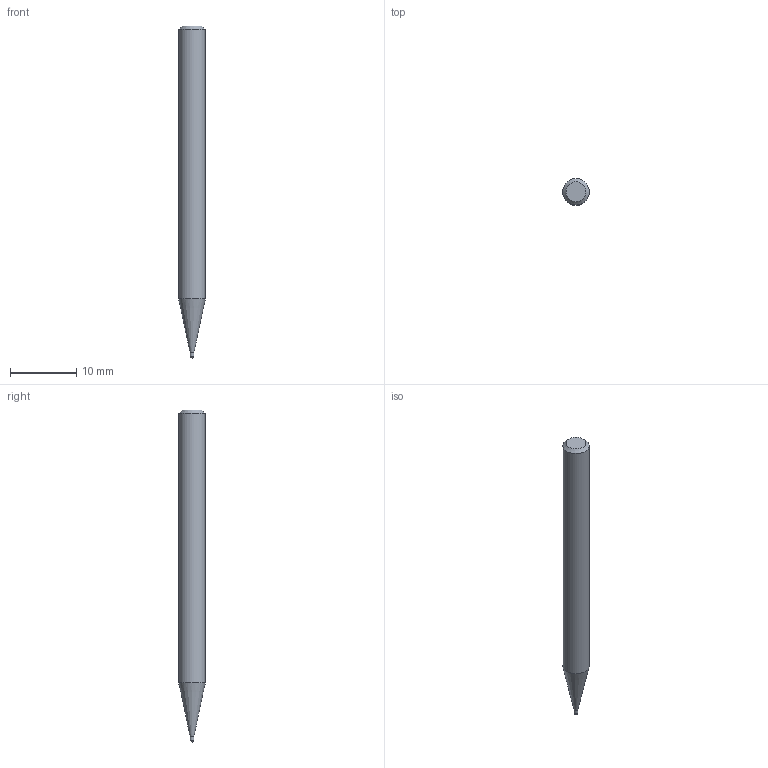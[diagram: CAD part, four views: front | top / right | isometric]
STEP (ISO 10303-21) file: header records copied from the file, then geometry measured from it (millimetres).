
FILE_DESCRIPTION((''),'2;1');
FILE_NAME('C:\Users\nsx150\AppData\Local\Temp\Mastercam 2021\98T1Q6BTT1\TEMP.step','2021-10-21T14:55:20',(''),(''),'STEP Write','Mastercam 2021 ... CNC Software, Inc.','');
FILE_SCHEMA(('AUTOMOTIVE_DESIGN'));
Length unit declared in the file: millimetre
Products named in the file (1): None
Bounding box: 4 x 4 x 50 mm (x, y, z)
Volume: 554.6 mm3; surface area: 586.4 mm2
Topology: 2 solids, 2 shells, 8 faces, 12 edges, 7 vertices
Faces by surface type: plane 3, cylinder 2, cone 2, sphere 1
Full cylindrical faces by diameter (mm): 0.6 x1, 4 x1
Entity records: 190 total; most frequent: DIRECTION 32, CARTESIAN_POINT 22, AXIS2_PLACEMENT_3D 16, ORIENTED_EDGE 12, EDGE_LOOP 12, STYLED_ITEM 11, ADVANCED_FACE 8, VERTEX_POINT 6
